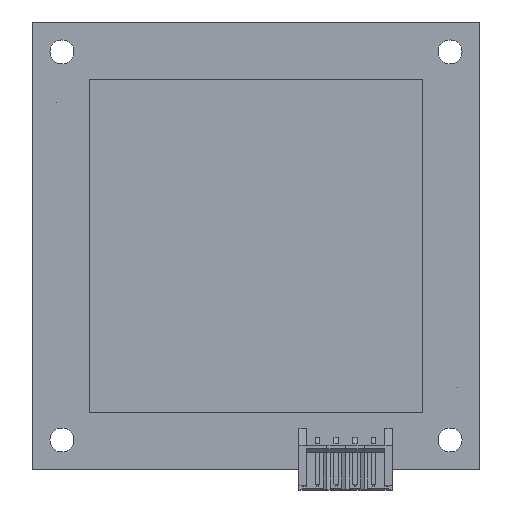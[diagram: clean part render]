
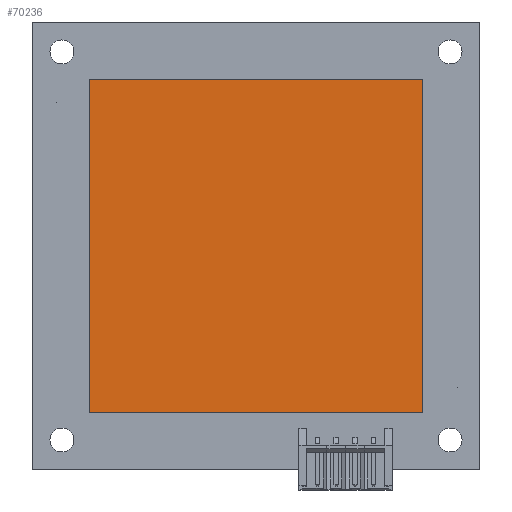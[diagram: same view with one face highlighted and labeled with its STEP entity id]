
A CAD part, top view. The second image highlights one B-rep face of the part: STEP entity #70236.
In plain terms, the highlighted planar face has unit normal (0, 0, 1).
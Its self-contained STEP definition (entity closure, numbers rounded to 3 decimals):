
#7972=LINE('',#115707,#14697);
#7973=LINE('',#115709,#14698);
#7974=LINE('',#115711,#14699);
#7975=LINE('',#115712,#14700);
#14697=VECTOR('',#96803,1.);
#14698=VECTOR('',#96804,1.);
#14699=VECTOR('',#96805,1.);
#14700=VECTOR('',#96806,1.);
#18489=PLANE('',#79861);
#22334=FACE_OUTER_BOUND('',#26355,.T.);
#26355=EDGE_LOOP('',(#57869,#57870,#57871,#57872));
#33645=VERTEX_POINT('',#115705);
#33646=VERTEX_POINT('',#115706);
#33647=VERTEX_POINT('',#115708);
#33648=VERTEX_POINT('',#115710);
#41977=EDGE_CURVE('',#33645,#33646,#7972,.T.);
#41978=EDGE_CURVE('',#33646,#33647,#7973,.T.);
#41979=EDGE_CURVE('',#33647,#33648,#7974,.T.);
#41980=EDGE_CURVE('',#33648,#33645,#7975,.T.);
#57869=ORIENTED_EDGE('',*,*,#41977,.T.);
#57870=ORIENTED_EDGE('',*,*,#41978,.T.);
#57871=ORIENTED_EDGE('',*,*,#41979,.T.);
#57872=ORIENTED_EDGE('',*,*,#41980,.T.);
#70236=ADVANCED_FACE('',(#22334),#18489,.T.);
#79861=AXIS2_PLACEMENT_3D('',#115704,#96801,#96802);
#96801=DIRECTION('center_axis',(0.,0.,1.));
#96802=DIRECTION('ref_axis',(1.,0.,0.));
#96803=DIRECTION('',(-1.,0.,0.));
#96804=DIRECTION('',(0.,-1.,0.));
#96805=DIRECTION('',(1.,0.,0.));
#96806=DIRECTION('',(0.,1.,0.));
#115704=CARTESIAN_POINT('Origin',(-22.285,22.285,3.8));
#115705=CARTESIAN_POINT('',(22.285,22.285,3.8));
#115706=CARTESIAN_POINT('',(-22.285,22.285,3.8));
#115707=CARTESIAN_POINT('',(-22.285,22.285,3.8));
#115708=CARTESIAN_POINT('',(-22.285,-22.285,3.8));
#115709=CARTESIAN_POINT('',(-22.285,-22.285,3.8));
#115710=CARTESIAN_POINT('',(22.285,-22.285,3.8));
#115711=CARTESIAN_POINT('',(22.285,-22.285,3.8));
#115712=CARTESIAN_POINT('',(22.285,22.285,3.8));
